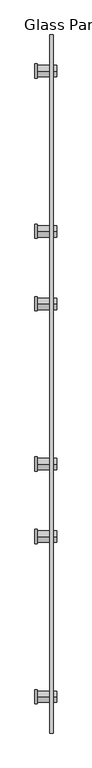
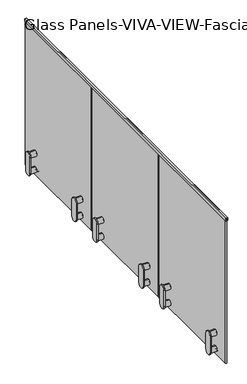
"""IFC4 building model written with IfcOpenShell, lengths in millimetres: railing geometry, Glass Panels-VIVA-VIEW-Fascia-Plate-Straight."""

from ifc_helpers import new_model, si_unit, point, frame, frame_2d, origin, place, context, project, spatial, polyline, circle_curve, trimmed, segment, composite_curve, outline, extrude, source, transform, mapped, element, save
from ifc_brep_helpers import plane_surface, cylinder_surface, advanced_brep


def glass_panels_viva_view_fascia_plate_straight_4b569ee7(model_context):
    return source(origin(), model_context, "Body", "SolidModel", [
        extrude(outline(polyline([(4140.2, 42887.1264963), (4114.8, 42887.1264963), (4114.8, 42888.7139963), (4138.6125, 42888.7139963), (4138.6125, 42901.4139963), (4114.8, 42901.4139963), (4114.8, 42903.0014963), (4140.2, 42903.0014963), (4140.2, 42887.1264963)])), frame((0.0, -11437.3346054, 0.0), z_axis=(0.0, 1.0, 0.0), x_axis=(0.0, 0.0, 1.0)), (0.0, 0.0, 1.0), 3098.8),
        advanced_brep(
        [(42918.8762024, -9210.2182255, 2794.0), (42918.8762024, -9210.2182255, 2844.8), (42918.8762024, -9210.2182255, 2819.4), (42901.4137024, -9210.2182255, 2794.0), (42901.4137024, -9210.2182255, 2844.8), (42901.4137024, -9210.2182255, 2813.685), (42901.4137024, -9210.2182255, 2825.115), (42888.7137024, -9210.2182255, 2813.685), (42888.7137024, -9210.2182255, 2825.115), (42888.7137024, -9210.2182255, 2794.0), (42888.7137024, -9210.2182255, 2844.8), (42831.5638494, -9210.2182255, 2794.0), (42831.5638494, -9210.2182255, 2844.8), (42831.5638494, -9210.2182255, 2819.4)],
        [
            (0, 1, circle_curve(frame((42918.8762024, -9210.2182255, 2819.4), z_axis=(1.0, 0.0, 0.0), x_axis=(0.0, 0.0, 1.0)), 25.4)),
            (1, 2),
            (2, 0),
            (1, 0, circle_curve(frame((42918.8762024, -9210.2182255, 2819.4), z_axis=(1.0, 0.0, 0.0), x_axis=(0.0, 0.0, 1.0)), 25.4)),
            (3, 4, circle_curve(frame((42901.4137024, -9210.2182255, 2819.4), z_axis=(1.0, 0.0, 0.0), x_axis=(0.0, 0.0, 1.0)), 25.4)),
            (4, 1),
            (0, 3),
            (4, 3, circle_curve(frame((42901.4137024, -9210.2182255, 2819.4), z_axis=(1.0, 0.0, 0.0), x_axis=(0.0, 0.0, 1.0)), 25.4)),
            (5, 6, circle_curve(frame((42901.4137024, -9210.2182255, 2819.4), z_axis=(1.0, 0.0, 0.0), x_axis=(0.0, 0.0, 1.0)), 5.715)),
            (6, 4),
            (3, 5),
            (6, 5, circle_curve(frame((42901.4137024, -9210.2182255, 2819.4), z_axis=(1.0, 0.0, 0.0), x_axis=(0.0, 0.0, 1.0)), 5.715)),
            (7, 8, circle_curve(frame((42888.7137024, -9210.2182255, 2819.4), z_axis=(1.0, 0.0, 0.0), x_axis=(0.0, 0.0, 1.0)), 5.715)),
            (8, 6),
            (5, 7),
            (8, 7, circle_curve(frame((42888.7137024, -9210.2182255, 2819.4), z_axis=(1.0, 0.0, 0.0), x_axis=(0.0, 0.0, 1.0)), 5.715)),
            (9, 10, circle_curve(frame((42888.7137024, -9210.2182255, 2819.4), z_axis=(1.0, 0.0, 0.0), x_axis=(0.0, 0.0, 1.0)), 25.4)),
            (10, 8),
            (7, 9),
            (10, 9, circle_curve(frame((42888.7137024, -9210.2182255, 2819.4), z_axis=(1.0, 0.0, 0.0), x_axis=(0.0, 0.0, 1.0)), 25.4)),
            (11, 12, circle_curve(frame((42831.5638494, -9210.2182255, 2819.4), z_axis=(1.0, 0.0, 0.0), x_axis=(0.0, 0.0, 1.0)), 25.4)),
            (12, 10),
            (9, 11),
            (12, 11, circle_curve(frame((42831.5638494, -9210.2182255, 2819.4), z_axis=(1.0, 0.0, 0.0), x_axis=(0.0, 0.0, 1.0)), 25.4)),
            (13, 12),
            (11, 13),
        ],
        [
            plane_surface(frame((42918.8762024, -9210.2182255, 2819.4), z_axis=(1.0, 0.0, 0.0), x_axis=(0.0, 0.0, 1.0))),
            cylinder_surface(frame((42987.1388494, -9210.2182255, 2819.4), z_axis=(-1.0, 0.0, 0.0), x_axis=(0.0, 0.0, 1.0)), 25.4),
            plane_surface(frame((42901.4137024, -9210.2182255, 2819.4), z_axis=(-1.0, 0.0, 0.0), x_axis=(0.0, 0.0, 1.0))),
            cylinder_surface(frame((42987.1388494, -9210.2182255, 2819.4), z_axis=(-1.0, 0.0, 0.0), x_axis=(0.0, 0.0, 1.0)), 5.715),
            plane_surface(frame((42888.7137024, -9210.2182255, 2819.4), z_axis=(1.0, 0.0, 0.0), x_axis=(0.0, 0.0, 1.0))),
            plane_surface(frame((42831.5638494, -9210.2182255, 2819.4), z_axis=(-1.0, 0.0, 0.0), x_axis=(0.0, 0.0, 1.0))),
        ],
        [
            (0, [[1, 2, 3]]),
            (0, [[4, -3, -2]]),
            (1, [[5, 6, -1, 7]]),
            (1, [[8, -7, -4, -6]]),
            (2, [[9, 10, -5, 11]]),
            (2, [[12, -11, -8, -10]]),
            (3, [[13, 14, -9, 15]]),
            (3, [[16, -15, -12, -14]]),
            (4, [[17, 18, -13, 19]]),
            (4, [[20, -19, -16, -18]]),
            (1, [[21, 22, -17, 23]]),
            (1, [[24, -23, -20, -22]]),
            (5, [[25, -21, 26]]),
            (5, [[-26, -24, -25]]),
        ],
    ),
        advanced_brep(
        [(42901.4137024, -9210.2182255, 2966.085), (42901.4137024, -9210.2182255, 2977.515), (42901.4137024, -9210.2182255, 2997.2), (42901.4137024, -9210.2182255, 2946.4), (42888.7137024, -9210.2182255, 2966.085), (42888.7137024, -9210.2182255, 2977.515), (42888.7137024, -9210.2182255, 2946.4), (42888.7137024, -9210.2182255, 2997.2), (42831.5638494, -9210.2182255, 2946.4), (42831.5638494, -9210.2182255, 2997.2), (42831.5638494, -9210.2182255, 2971.8), (42918.8762024, -9210.2182255, 2946.4), (42918.8762024, -9210.2182255, 2997.2), (42918.8762024, -9210.2182255, 2971.8)],
        [
            (0, 1, circle_curve(frame((42901.4137024, -9210.2182255, 2971.8), z_axis=(1.0, 0.0, 0.0), x_axis=(0.0, 0.0, 1.0)), 5.715)),
            (1, 2),
            (2, 3, circle_curve(frame((42901.4137024, -9210.2182255, 2971.8), z_axis=(-1.0, 0.0, 0.0), x_axis=(0.0, 0.0, 1.0)), 25.4)),
            (3, 0),
            (1, 0, circle_curve(frame((42901.4137024, -9210.2182255, 2971.8), z_axis=(1.0, 0.0, 0.0), x_axis=(0.0, 0.0, 1.0)), 5.715)),
            (3, 2, circle_curve(frame((42901.4137024, -9210.2182255, 2971.8), z_axis=(-1.0, 0.0, 0.0), x_axis=(0.0, 0.0, 1.0)), 25.4)),
            (4, 5, circle_curve(frame((42888.7137024, -9210.2182255, 2971.8), z_axis=(1.0, 0.0, 0.0), x_axis=(0.0, 0.0, 1.0)), 5.715)),
            (5, 1),
            (0, 4),
            (5, 4, circle_curve(frame((42888.7137024, -9210.2182255, 2971.8), z_axis=(1.0, 0.0, 0.0), x_axis=(0.0, 0.0, 1.0)), 5.715)),
            (6, 7, circle_curve(frame((42888.7137024, -9210.2182255, 2971.8), z_axis=(1.0, 0.0, 0.0), x_axis=(0.0, 0.0, 1.0)), 25.4)),
            (7, 5),
            (4, 6),
            (7, 6, circle_curve(frame((42888.7137024, -9210.2182255, 2971.8), z_axis=(1.0, 0.0, 0.0), x_axis=(0.0, 0.0, 1.0)), 25.4)),
            (8, 9, circle_curve(frame((42831.5638494, -9210.2182255, 2971.8), z_axis=(1.0, 0.0, 0.0), x_axis=(0.0, 0.0, 1.0)), 25.4)),
            (9, 7),
            (6, 8),
            (9, 8, circle_curve(frame((42831.5638494, -9210.2182255, 2971.8), z_axis=(1.0, 0.0, 0.0), x_axis=(0.0, 0.0, 1.0)), 25.4)),
            (10, 9),
            (8, 10),
            (11, 12, circle_curve(frame((42918.8762024, -9210.2182255, 2971.8), z_axis=(1.0, 0.0, 0.0), x_axis=(0.0, 0.0, 1.0)), 25.4)),
            (12, 13),
            (13, 11),
            (12, 11, circle_curve(frame((42918.8762024, -9210.2182255, 2971.8), z_axis=(1.0, 0.0, 0.0), x_axis=(0.0, 0.0, 1.0)), 25.4)),
            (2, 12),
            (11, 3),
        ],
        [
            plane_surface(frame((42901.4137024, -9210.2182255, 2971.8), z_axis=(-1.0, 0.0, 0.0), x_axis=(0.0, 0.0, 1.0))),
            cylinder_surface(frame((42987.1388494, -9210.2182255, 2971.8), z_axis=(-1.0, 0.0, 0.0), x_axis=(0.0, 0.0, 1.0)), 5.715),
            plane_surface(frame((42888.7137024, -9210.2182255, 2971.8), z_axis=(1.0, 0.0, 0.0), x_axis=(0.0, 0.0, 1.0))),
            cylinder_surface(frame((42987.1388494, -9210.2182255, 2971.8), z_axis=(-1.0, 0.0, 0.0), x_axis=(0.0, 0.0, 1.0)), 25.4),
            plane_surface(frame((42831.5638494, -9210.2182255, 2971.8), z_axis=(-1.0, 0.0, 0.0), x_axis=(0.0, 0.0, 1.0))),
            plane_surface(frame((42918.8762024, -9210.2182255, 2971.8), z_axis=(1.0, 0.0, 0.0), x_axis=(0.0, 0.0, 1.0))),
        ],
        [
            (0, [[1, 2, 3, 4]]),
            (0, [[5, -4, 6, -2]]),
            (1, [[7, 8, -1, 9]]),
            (1, [[10, -9, -5, -8]]),
            (2, [[11, 12, -7, 13]]),
            (2, [[14, -13, -10, -12]]),
            (3, [[15, 16, -11, 17]]),
            (3, [[18, -17, -14, -16]]),
            (4, [[19, -15, 20]]),
            (4, [[-20, -18, -19]]),
            (5, [[21, 22, 23]]),
            (5, [[24, -23, -22]]),
            (3, [[-3, 25, -21, 26]]),
            (3, [[-6, -26, -24, -25]]),
        ],
    ),
        extrude(outline(composite_curve([segment(trimmed(circle_curve(frame_2d((-9210.2182255, 2971.8)), 31.75), [point((-9241.9682255, 2971.8))], [point((-9178.4682255, 2971.8))], False, "CARTESIAN"), True, "CONTINUOUS"), segment(polyline([(-9178.4682255, 2971.8), (-9178.4682255, 2819.4)]), True, "CONTINUOUS"), segment(trimmed(circle_curve(frame_2d((-9210.2182255, 2819.4)), 31.75), [point((-9178.4682255, 2819.4))], [point((-9241.9682255, 2819.4))], False, "CARTESIAN"), True, "CONTINUOUS"), segment(polyline([(-9241.9682255, 2819.4), (-9241.9682255, 2971.8)]), True, "CONTINUOUS")], self_intersect=False)), frame((42822.0388494, 0.0, 0.0), z_axis=(1.0, 0.0, 0.0), x_axis=(0.0, 1.0, 0.0)), (0.0, 0.0, 1.0), 9.525),
        advanced_brep(
        [(42918.8762024, -8499.0182255, 2794.0), (42918.8762024, -8499.0182255, 2844.8), (42918.8762024, -8499.0182255, 2819.4), (42901.4137024, -8499.0182255, 2794.0), (42901.4137024, -8499.0182255, 2844.8), (42901.4137024, -8499.0182255, 2813.685), (42901.4137024, -8499.0182255, 2825.115), (42888.7137024, -8499.0182255, 2813.685), (42888.7137024, -8499.0182255, 2825.115), (42888.7137024, -8499.0182255, 2794.0), (42888.7137024, -8499.0182255, 2844.8), (42831.5638494, -8499.0182255, 2794.0), (42831.5638494, -8499.0182255, 2844.8), (42831.5638494, -8499.0182255, 2819.4)],
        [
            (0, 1, circle_curve(frame((42918.8762024, -8499.0182255, 2819.4), z_axis=(1.0, 0.0, 0.0), x_axis=(0.0, 0.0, 1.0)), 25.4)),
            (1, 2),
            (2, 0),
            (1, 0, circle_curve(frame((42918.8762024, -8499.0182255, 2819.4), z_axis=(1.0, 0.0, 0.0), x_axis=(0.0, 0.0, 1.0)), 25.4)),
            (3, 4, circle_curve(frame((42901.4137024, -8499.0182255, 2819.4), z_axis=(1.0, 0.0, 0.0), x_axis=(0.0, 0.0, 1.0)), 25.4)),
            (4, 1),
            (0, 3),
            (4, 3, circle_curve(frame((42901.4137024, -8499.0182255, 2819.4), z_axis=(1.0, 0.0, 0.0), x_axis=(0.0, 0.0, 1.0)), 25.4)),
            (5, 6, circle_curve(frame((42901.4137024, -8499.0182255, 2819.4), z_axis=(1.0, 0.0, 0.0), x_axis=(0.0, 0.0, 1.0)), 5.715)),
            (6, 4),
            (3, 5),
            (6, 5, circle_curve(frame((42901.4137024, -8499.0182255, 2819.4), z_axis=(1.0, 0.0, 0.0), x_axis=(0.0, 0.0, 1.0)), 5.715)),
            (7, 8, circle_curve(frame((42888.7137024, -8499.0182255, 2819.4), z_axis=(1.0, 0.0, 0.0), x_axis=(0.0, 0.0, 1.0)), 5.715)),
            (8, 6),
            (5, 7),
            (8, 7, circle_curve(frame((42888.7137024, -8499.0182255, 2819.4), z_axis=(1.0, 0.0, 0.0), x_axis=(0.0, 0.0, 1.0)), 5.715)),
            (9, 10, circle_curve(frame((42888.7137024, -8499.0182255, 2819.4), z_axis=(1.0, 0.0, 0.0), x_axis=(0.0, 0.0, 1.0)), 25.4)),
            (10, 8),
            (7, 9),
            (10, 9, circle_curve(frame((42888.7137024, -8499.0182255, 2819.4), z_axis=(1.0, 0.0, 0.0), x_axis=(0.0, 0.0, 1.0)), 25.4)),
            (11, 12, circle_curve(frame((42831.5638494, -8499.0182255, 2819.4), z_axis=(1.0, 0.0, 0.0), x_axis=(0.0, 0.0, 1.0)), 25.4)),
            (12, 10),
            (9, 11),
            (12, 11, circle_curve(frame((42831.5638494, -8499.0182255, 2819.4), z_axis=(1.0, 0.0, 0.0), x_axis=(0.0, 0.0, 1.0)), 25.4)),
            (13, 12),
            (11, 13),
        ],
        [
            plane_surface(frame((42918.8762024, -8499.0182255, 2819.4), z_axis=(1.0, 0.0, 0.0), x_axis=(0.0, 0.0, 1.0))),
            cylinder_surface(frame((42987.1388494, -8499.0182255, 2819.4), z_axis=(-1.0, 0.0, 0.0), x_axis=(0.0, 0.0, 1.0)), 25.4),
            plane_surface(frame((42901.4137024, -8499.0182255, 2819.4), z_axis=(-1.0, 0.0, 0.0), x_axis=(0.0, 0.0, 1.0))),
            cylinder_surface(frame((42987.1388494, -8499.0182255, 2819.4), z_axis=(-1.0, 0.0, 0.0), x_axis=(0.0, 0.0, 1.0)), 5.715),
            plane_surface(frame((42888.7137024, -8499.0182255, 2819.4), z_axis=(1.0, 0.0, 0.0), x_axis=(0.0, 0.0, 1.0))),
            plane_surface(frame((42831.5638494, -8499.0182255, 2819.4), z_axis=(-1.0, 0.0, 0.0), x_axis=(0.0, 0.0, 1.0))),
        ],
        [
            (0, [[1, 2, 3]]),
            (0, [[4, -3, -2]]),
            (1, [[5, 6, -1, 7]]),
            (1, [[8, -7, -4, -6]]),
            (2, [[9, 10, -5, 11]]),
            (2, [[12, -11, -8, -10]]),
            (3, [[13, 14, -9, 15]]),
            (3, [[16, -15, -12, -14]]),
            (4, [[17, 18, -13, 19]]),
            (4, [[20, -19, -16, -18]]),
            (1, [[21, 22, -17, 23]]),
            (1, [[24, -23, -20, -22]]),
            (5, [[25, -21, 26]]),
            (5, [[-26, -24, -25]]),
        ],
    ),
        advanced_brep(
        [(42901.4137024, -8499.0182255, 2966.085), (42901.4137024, -8499.0182255, 2977.515), (42901.4137024, -8499.0182255, 2997.2), (42901.4137024, -8499.0182255, 2946.4), (42888.7137024, -8499.0182255, 2966.085), (42888.7137024, -8499.0182255, 2977.515), (42888.7137024, -8499.0182255, 2946.4), (42888.7137024, -8499.0182255, 2997.2), (42831.5638494, -8499.0182255, 2946.4), (42831.5638494, -8499.0182255, 2997.2), (42831.5638494, -8499.0182255, 2971.8), (42918.8762024, -8499.0182255, 2946.4), (42918.8762024, -8499.0182255, 2997.2), (42918.8762024, -8499.0182255, 2971.8)],
        [
            (0, 1, circle_curve(frame((42901.4137024, -8499.0182255, 2971.8), z_axis=(1.0, 0.0, 0.0), x_axis=(0.0, 0.0, 1.0)), 5.715)),
            (1, 2),
            (2, 3, circle_curve(frame((42901.4137024, -8499.0182255, 2971.8), z_axis=(-1.0, 0.0, 0.0), x_axis=(0.0, 0.0, 1.0)), 25.4)),
            (3, 0),
            (1, 0, circle_curve(frame((42901.4137024, -8499.0182255, 2971.8), z_axis=(1.0, 0.0, 0.0), x_axis=(0.0, 0.0, 1.0)), 5.715)),
            (3, 2, circle_curve(frame((42901.4137024, -8499.0182255, 2971.8), z_axis=(-1.0, 0.0, 0.0), x_axis=(0.0, 0.0, 1.0)), 25.4)),
            (4, 5, circle_curve(frame((42888.7137024, -8499.0182255, 2971.8), z_axis=(1.0, 0.0, 0.0), x_axis=(0.0, 0.0, 1.0)), 5.715)),
            (5, 1),
            (0, 4),
            (5, 4, circle_curve(frame((42888.7137024, -8499.0182255, 2971.8), z_axis=(1.0, 0.0, 0.0), x_axis=(0.0, 0.0, 1.0)), 5.715)),
            (6, 7, circle_curve(frame((42888.7137024, -8499.0182255, 2971.8), z_axis=(1.0, 0.0, 0.0), x_axis=(0.0, 0.0, 1.0)), 25.4)),
            (7, 5),
            (4, 6),
            (7, 6, circle_curve(frame((42888.7137024, -8499.0182255, 2971.8), z_axis=(1.0, 0.0, 0.0), x_axis=(0.0, 0.0, 1.0)), 25.4)),
            (8, 9, circle_curve(frame((42831.5638494, -8499.0182255, 2971.8), z_axis=(1.0, 0.0, 0.0), x_axis=(0.0, 0.0, 1.0)), 25.4)),
            (9, 7),
            (6, 8),
            (9, 8, circle_curve(frame((42831.5638494, -8499.0182255, 2971.8), z_axis=(1.0, 0.0, 0.0), x_axis=(0.0, 0.0, 1.0)), 25.4)),
            (10, 9),
            (8, 10),
            (11, 12, circle_curve(frame((42918.8762024, -8499.0182255, 2971.8), z_axis=(1.0, 0.0, 0.0), x_axis=(0.0, 0.0, 1.0)), 25.4)),
            (12, 13),
            (13, 11),
            (12, 11, circle_curve(frame((42918.8762024, -8499.0182255, 2971.8), z_axis=(1.0, 0.0, 0.0), x_axis=(0.0, 0.0, 1.0)), 25.4)),
            (2, 12),
            (11, 3),
        ],
        [
            plane_surface(frame((42901.4137024, -8499.0182255, 2971.8), z_axis=(-1.0, 0.0, 0.0), x_axis=(0.0, 0.0, 1.0))),
            cylinder_surface(frame((42987.1388494, -8499.0182255, 2971.8), z_axis=(-1.0, 0.0, 0.0), x_axis=(0.0, 0.0, 1.0)), 5.715),
            plane_surface(frame((42888.7137024, -8499.0182255, 2971.8), z_axis=(1.0, 0.0, 0.0), x_axis=(0.0, 0.0, 1.0))),
            cylinder_surface(frame((42987.1388494, -8499.0182255, 2971.8), z_axis=(-1.0, 0.0, 0.0), x_axis=(0.0, 0.0, 1.0)), 25.4),
            plane_surface(frame((42831.5638494, -8499.0182255, 2971.8), z_axis=(-1.0, 0.0, 0.0), x_axis=(0.0, 0.0, 1.0))),
            plane_surface(frame((42918.8762024, -8499.0182255, 2971.8), z_axis=(1.0, 0.0, 0.0), x_axis=(0.0, 0.0, 1.0))),
        ],
        [
            (0, [[1, 2, 3, 4]]),
            (0, [[5, -4, 6, -2]]),
            (1, [[7, 8, -1, 9]]),
            (1, [[10, -9, -5, -8]]),
            (2, [[11, 12, -7, 13]]),
            (2, [[14, -13, -10, -12]]),
            (3, [[15, 16, -11, 17]]),
            (3, [[18, -17, -14, -16]]),
            (4, [[19, -15, 20]]),
            (4, [[-20, -18, -19]]),
            (5, [[21, 22, 23]]),
            (5, [[24, -23, -22]]),
            (3, [[-3, 25, -21, 26]]),
            (3, [[-6, -26, -24, -25]]),
        ],
    ),
        extrude(outline(composite_curve([segment(trimmed(circle_curve(frame_2d((-8499.0182255, 2971.8)), 31.75), [point((-8530.7682255, 2971.8))], [point((-8467.2682255, 2971.8))], False, "CARTESIAN"), True, "CONTINUOUS"), segment(polyline([(-8467.2682255, 2971.8), (-8467.2682255, 2819.4)]), True, "CONTINUOUS"), segment(trimmed(circle_curve(frame_2d((-8499.0182255, 2819.4)), 31.75), [point((-8467.2682255, 2819.4))], [point((-8530.7682255, 2819.4))], False, "CARTESIAN"), True, "CONTINUOUS"), segment(polyline([(-8530.7682255, 2819.4), (-8530.7682255, 2971.8)]), True, "CONTINUOUS")], self_intersect=False)), frame((42822.0388494, 0.0, 0.0), z_axis=(1.0, 0.0, 0.0), x_axis=(0.0, 1.0, 0.0)), (0.0, 0.0, 1.0), 9.525),
        extrude(outline(polyline([(42888.7139963, -9362.6182255), (42888.7139963, -8346.6182255), (42901.4139963, -8346.6182255), (42901.4139963, -9362.6182255), (42888.7139963, -9362.6182255)])), frame((0.0, 0.0, 2768.6), z_axis=(0.0, 0.0, 1.0), x_axis=(1.0, 0.0, 0.0)), (0.0, 0.0, 1.0), 1370.0125),
        advanced_brep(
        [(42918.8762024, -10243.1515588, 2794.0), (42918.8762024, -10243.1515588, 2844.8), (42918.8762024, -10243.1515588, 2819.4), (42901.4137024, -10243.1515588, 2794.0), (42901.4137024, -10243.1515588, 2844.8), (42901.4137024, -10243.1515588, 2813.685), (42901.4137024, -10243.1515588, 2825.115), (42888.7137024, -10243.1515588, 2813.685), (42888.7137024, -10243.1515588, 2825.115), (42888.7137024, -10243.1515588, 2794.0), (42888.7137024, -10243.1515588, 2844.8), (42831.5638494, -10243.1515588, 2794.0), (42831.5638494, -10243.1515588, 2844.8), (42831.5638494, -10243.1515588, 2819.4)],
        [
            (0, 1, circle_curve(frame((42918.8762024, -10243.1515588, 2819.4), z_axis=(1.0, 0.0, 0.0), x_axis=(0.0, 0.0, 1.0)), 25.4)),
            (1, 2),
            (2, 0),
            (1, 0, circle_curve(frame((42918.8762024, -10243.1515588, 2819.4), z_axis=(1.0, 0.0, 0.0), x_axis=(0.0, 0.0, 1.0)), 25.4)),
            (3, 4, circle_curve(frame((42901.4137024, -10243.1515588, 2819.4), z_axis=(1.0, 0.0, 0.0), x_axis=(0.0, 0.0, 1.0)), 25.4)),
            (4, 1),
            (0, 3),
            (4, 3, circle_curve(frame((42901.4137024, -10243.1515588, 2819.4), z_axis=(1.0, 0.0, 0.0), x_axis=(0.0, 0.0, 1.0)), 25.4)),
            (5, 6, circle_curve(frame((42901.4137024, -10243.1515588, 2819.4), z_axis=(1.0, 0.0, 0.0), x_axis=(0.0, 0.0, 1.0)), 5.715)),
            (6, 4),
            (3, 5),
            (6, 5, circle_curve(frame((42901.4137024, -10243.1515588, 2819.4), z_axis=(1.0, 0.0, 0.0), x_axis=(0.0, 0.0, 1.0)), 5.715)),
            (7, 8, circle_curve(frame((42888.7137024, -10243.1515588, 2819.4), z_axis=(1.0, 0.0, 0.0), x_axis=(0.0, 0.0, 1.0)), 5.715)),
            (8, 6),
            (5, 7),
            (8, 7, circle_curve(frame((42888.7137024, -10243.1515588, 2819.4), z_axis=(1.0, 0.0, 0.0), x_axis=(0.0, 0.0, 1.0)), 5.715)),
            (9, 10, circle_curve(frame((42888.7137024, -10243.1515588, 2819.4), z_axis=(1.0, 0.0, 0.0), x_axis=(0.0, 0.0, 1.0)), 25.4)),
            (10, 8),
            (7, 9),
            (10, 9, circle_curve(frame((42888.7137024, -10243.1515588, 2819.4), z_axis=(1.0, 0.0, 0.0), x_axis=(0.0, 0.0, 1.0)), 25.4)),
            (11, 12, circle_curve(frame((42831.5638494, -10243.1515588, 2819.4), z_axis=(1.0, 0.0, 0.0), x_axis=(0.0, 0.0, 1.0)), 25.4)),
            (12, 10),
            (9, 11),
            (12, 11, circle_curve(frame((42831.5638494, -10243.1515588, 2819.4), z_axis=(1.0, 0.0, 0.0), x_axis=(0.0, 0.0, 1.0)), 25.4)),
            (13, 12),
            (11, 13),
        ],
        [
            plane_surface(frame((42918.8762024, -10243.1515588, 2819.4), z_axis=(1.0, 0.0, 0.0), x_axis=(0.0, 0.0, 1.0))),
            cylinder_surface(frame((42987.1388494, -10243.1515588, 2819.4), z_axis=(-1.0, 0.0, 0.0), x_axis=(0.0, 0.0, 1.0)), 25.4),
            plane_surface(frame((42901.4137024, -10243.1515588, 2819.4), z_axis=(-1.0, 0.0, 0.0), x_axis=(0.0, 0.0, 1.0))),
            cylinder_surface(frame((42987.1388494, -10243.1515588, 2819.4), z_axis=(-1.0, 0.0, 0.0), x_axis=(0.0, 0.0, 1.0)), 5.715),
            plane_surface(frame((42888.7137024, -10243.1515588, 2819.4), z_axis=(1.0, 0.0, 0.0), x_axis=(0.0, 0.0, 1.0))),
            plane_surface(frame((42831.5638494, -10243.1515588, 2819.4), z_axis=(-1.0, 0.0, 0.0), x_axis=(0.0, 0.0, 1.0))),
        ],
        [
            (0, [[1, 2, 3]]),
            (0, [[4, -3, -2]]),
            (1, [[5, 6, -1, 7]]),
            (1, [[8, -7, -4, -6]]),
            (2, [[9, 10, -5, 11]]),
            (2, [[12, -11, -8, -10]]),
            (3, [[13, 14, -9, 15]]),
            (3, [[16, -15, -12, -14]]),
            (4, [[17, 18, -13, 19]]),
            (4, [[20, -19, -16, -18]]),
            (1, [[21, 22, -17, 23]]),
            (1, [[24, -23, -20, -22]]),
            (5, [[25, -21, 26]]),
            (5, [[-26, -24, -25]]),
        ],
    ),
        advanced_brep(
        [(42901.4137024, -10243.1515588, 2966.085), (42901.4137024, -10243.1515588, 2977.515), (42901.4137024, -10243.1515588, 2997.2), (42901.4137024, -10243.1515588, 2946.4), (42888.7137024, -10243.1515588, 2966.085), (42888.7137024, -10243.1515588, 2977.515), (42888.7137024, -10243.1515588, 2946.4), (42888.7137024, -10243.1515588, 2997.2), (42831.5638494, -10243.1515588, 2946.4), (42831.5638494, -10243.1515588, 2997.2), (42831.5638494, -10243.1515588, 2971.8), (42918.8762024, -10243.1515588, 2946.4), (42918.8762024, -10243.1515588, 2997.2), (42918.8762024, -10243.1515588, 2971.8)],
        [
            (0, 1, circle_curve(frame((42901.4137024, -10243.1515588, 2971.8), z_axis=(1.0, 0.0, 0.0), x_axis=(0.0, 0.0, 1.0)), 5.715)),
            (1, 2),
            (2, 3, circle_curve(frame((42901.4137024, -10243.1515588, 2971.8), z_axis=(-1.0, 0.0, 0.0), x_axis=(0.0, 0.0, 1.0)), 25.4)),
            (3, 0),
            (1, 0, circle_curve(frame((42901.4137024, -10243.1515588, 2971.8), z_axis=(1.0, 0.0, 0.0), x_axis=(0.0, 0.0, 1.0)), 5.715)),
            (3, 2, circle_curve(frame((42901.4137024, -10243.1515588, 2971.8), z_axis=(-1.0, 0.0, 0.0), x_axis=(0.0, 0.0, 1.0)), 25.4)),
            (4, 5, circle_curve(frame((42888.7137024, -10243.1515588, 2971.8), z_axis=(1.0, 0.0, 0.0), x_axis=(0.0, 0.0, 1.0)), 5.715)),
            (5, 1),
            (0, 4),
            (5, 4, circle_curve(frame((42888.7137024, -10243.1515588, 2971.8), z_axis=(1.0, 0.0, 0.0), x_axis=(0.0, 0.0, 1.0)), 5.715)),
            (6, 7, circle_curve(frame((42888.7137024, -10243.1515588, 2971.8), z_axis=(1.0, 0.0, 0.0), x_axis=(0.0, 0.0, 1.0)), 25.4)),
            (7, 5),
            (4, 6),
            (7, 6, circle_curve(frame((42888.7137024, -10243.1515588, 2971.8), z_axis=(1.0, 0.0, 0.0), x_axis=(0.0, 0.0, 1.0)), 25.4)),
            (8, 9, circle_curve(frame((42831.5638494, -10243.1515588, 2971.8), z_axis=(1.0, 0.0, 0.0), x_axis=(0.0, 0.0, 1.0)), 25.4)),
            (9, 7),
            (6, 8),
            (9, 8, circle_curve(frame((42831.5638494, -10243.1515588, 2971.8), z_axis=(1.0, 0.0, 0.0), x_axis=(0.0, 0.0, 1.0)), 25.4)),
            (10, 9),
            (8, 10),
            (11, 12, circle_curve(frame((42918.8762024, -10243.1515588, 2971.8), z_axis=(1.0, 0.0, 0.0), x_axis=(0.0, 0.0, 1.0)), 25.4)),
            (12, 13),
            (13, 11),
            (12, 11, circle_curve(frame((42918.8762024, -10243.1515588, 2971.8), z_axis=(1.0, 0.0, 0.0), x_axis=(0.0, 0.0, 1.0)), 25.4)),
            (2, 12),
            (11, 3),
        ],
        [
            plane_surface(frame((42901.4137024, -10243.1515588, 2971.8), z_axis=(-1.0, 0.0, 0.0), x_axis=(0.0, 0.0, 1.0))),
            cylinder_surface(frame((42987.1388494, -10243.1515588, 2971.8), z_axis=(-1.0, 0.0, 0.0), x_axis=(0.0, 0.0, 1.0)), 5.715),
            plane_surface(frame((42888.7137024, -10243.1515588, 2971.8), z_axis=(1.0, 0.0, 0.0), x_axis=(0.0, 0.0, 1.0))),
            cylinder_surface(frame((42987.1388494, -10243.1515588, 2971.8), z_axis=(-1.0, 0.0, 0.0), x_axis=(0.0, 0.0, 1.0)), 25.4),
            plane_surface(frame((42831.5638494, -10243.1515588, 2971.8), z_axis=(-1.0, 0.0, 0.0), x_axis=(0.0, 0.0, 1.0))),
            plane_surface(frame((42918.8762024, -10243.1515588, 2971.8), z_axis=(1.0, 0.0, 0.0), x_axis=(0.0, 0.0, 1.0))),
        ],
        [
            (0, [[1, 2, 3, 4]]),
            (0, [[5, -4, 6, -2]]),
            (1, [[7, 8, -1, 9]]),
            (1, [[10, -9, -5, -8]]),
            (2, [[11, 12, -7, 13]]),
            (2, [[14, -13, -10, -12]]),
            (3, [[15, 16, -11, 17]]),
            (3, [[18, -17, -14, -16]]),
            (4, [[19, -15, 20]]),
            (4, [[-20, -18, -19]]),
            (5, [[21, 22, 23]]),
            (5, [[24, -23, -22]]),
            (3, [[-3, 25, -21, 26]]),
            (3, [[-6, -26, -24, -25]]),
        ],
    ),
        extrude(outline(composite_curve([segment(trimmed(circle_curve(frame_2d((-10243.1515588, 2971.8)), 31.75), [point((-10274.9015588, 2971.8))], [point((-10211.4015588, 2971.8))], False, "CARTESIAN"), True, "CONTINUOUS"), segment(polyline([(-10211.4015588, 2971.8), (-10211.4015588, 2819.4)]), True, "CONTINUOUS"), segment(trimmed(circle_curve(frame_2d((-10243.1515588, 2819.4)), 31.75), [point((-10211.4015588, 2819.4))], [point((-10274.9015588, 2819.4))], False, "CARTESIAN"), True, "CONTINUOUS"), segment(polyline([(-10274.9015588, 2819.4), (-10274.9015588, 2971.8)]), True, "CONTINUOUS")], self_intersect=False)), frame((42822.0388494, 0.0, 0.0), z_axis=(1.0, 0.0, 0.0), x_axis=(0.0, 1.0, 0.0)), (0.0, 0.0, 1.0), 9.525),
        advanced_brep(
        [(42918.8762024, -9531.9515588, 2794.0), (42918.8762024, -9531.9515588, 2844.8), (42918.8762024, -9531.9515588, 2819.4), (42901.4137024, -9531.9515588, 2794.0), (42901.4137024, -9531.9515588, 2844.8), (42901.4137024, -9531.9515588, 2813.685), (42901.4137024, -9531.9515588, 2825.115), (42888.7137024, -9531.9515588, 2813.685), (42888.7137024, -9531.9515588, 2825.115), (42888.7137024, -9531.9515588, 2794.0), (42888.7137024, -9531.9515588, 2844.8), (42831.5638494, -9531.9515588, 2794.0), (42831.5638494, -9531.9515588, 2844.8), (42831.5638494, -9531.9515588, 2819.4)],
        [
            (0, 1, circle_curve(frame((42918.8762024, -9531.9515588, 2819.4), z_axis=(1.0, 0.0, 0.0), x_axis=(0.0, 0.0, 1.0)), 25.4)),
            (1, 2),
            (2, 0),
            (1, 0, circle_curve(frame((42918.8762024, -9531.9515588, 2819.4), z_axis=(1.0, 0.0, 0.0), x_axis=(0.0, 0.0, 1.0)), 25.4)),
            (3, 4, circle_curve(frame((42901.4137024, -9531.9515588, 2819.4), z_axis=(1.0, 0.0, 0.0), x_axis=(0.0, 0.0, 1.0)), 25.4)),
            (4, 1),
            (0, 3),
            (4, 3, circle_curve(frame((42901.4137024, -9531.9515588, 2819.4), z_axis=(1.0, 0.0, 0.0), x_axis=(0.0, 0.0, 1.0)), 25.4)),
            (5, 6, circle_curve(frame((42901.4137024, -9531.9515588, 2819.4), z_axis=(1.0, 0.0, 0.0), x_axis=(0.0, 0.0, 1.0)), 5.715)),
            (6, 4),
            (3, 5),
            (6, 5, circle_curve(frame((42901.4137024, -9531.9515588, 2819.4), z_axis=(1.0, 0.0, 0.0), x_axis=(0.0, 0.0, 1.0)), 5.715)),
            (7, 8, circle_curve(frame((42888.7137024, -9531.9515588, 2819.4), z_axis=(1.0, 0.0, 0.0), x_axis=(0.0, 0.0, 1.0)), 5.715)),
            (8, 6),
            (5, 7),
            (8, 7, circle_curve(frame((42888.7137024, -9531.9515588, 2819.4), z_axis=(1.0, 0.0, 0.0), x_axis=(0.0, 0.0, 1.0)), 5.715)),
            (9, 10, circle_curve(frame((42888.7137024, -9531.9515588, 2819.4), z_axis=(1.0, 0.0, 0.0), x_axis=(0.0, 0.0, 1.0)), 25.4)),
            (10, 8),
            (7, 9),
            (10, 9, circle_curve(frame((42888.7137024, -9531.9515588, 2819.4), z_axis=(1.0, 0.0, 0.0), x_axis=(0.0, 0.0, 1.0)), 25.4)),
            (11, 12, circle_curve(frame((42831.5638494, -9531.9515588, 2819.4), z_axis=(1.0, 0.0, 0.0), x_axis=(0.0, 0.0, 1.0)), 25.4)),
            (12, 10),
            (9, 11),
            (12, 11, circle_curve(frame((42831.5638494, -9531.9515588, 2819.4), z_axis=(1.0, 0.0, 0.0), x_axis=(0.0, 0.0, 1.0)), 25.4)),
            (13, 12),
            (11, 13),
        ],
        [
            plane_surface(frame((42918.8762024, -9531.9515588, 2819.4), z_axis=(1.0, 0.0, 0.0), x_axis=(0.0, 0.0, 1.0))),
            cylinder_surface(frame((42987.1388494, -9531.9515588, 2819.4), z_axis=(-1.0, 0.0, 0.0), x_axis=(0.0, 0.0, 1.0)), 25.4),
            plane_surface(frame((42901.4137024, -9531.9515588, 2819.4), z_axis=(-1.0, 0.0, 0.0), x_axis=(0.0, 0.0, 1.0))),
            cylinder_surface(frame((42987.1388494, -9531.9515588, 2819.4), z_axis=(-1.0, 0.0, 0.0), x_axis=(0.0, 0.0, 1.0)), 5.715),
            plane_surface(frame((42888.7137024, -9531.9515588, 2819.4), z_axis=(1.0, 0.0, 0.0), x_axis=(0.0, 0.0, 1.0))),
            plane_surface(frame((42831.5638494, -9531.9515588, 2819.4), z_axis=(-1.0, 0.0, 0.0), x_axis=(0.0, 0.0, 1.0))),
        ],
        [
            (0, [[1, 2, 3]]),
            (0, [[4, -3, -2]]),
            (1, [[5, 6, -1, 7]]),
            (1, [[8, -7, -4, -6]]),
            (2, [[9, 10, -5, 11]]),
            (2, [[12, -11, -8, -10]]),
            (3, [[13, 14, -9, 15]]),
            (3, [[16, -15, -12, -14]]),
            (4, [[17, 18, -13, 19]]),
            (4, [[20, -19, -16, -18]]),
            (1, [[21, 22, -17, 23]]),
            (1, [[24, -23, -20, -22]]),
            (5, [[25, -21, 26]]),
            (5, [[-26, -24, -25]]),
        ],
    ),
        advanced_brep(
        [(42901.4137024, -9531.9515588, 2966.085), (42901.4137024, -9531.9515588, 2977.515), (42901.4137024, -9531.9515588, 2997.2), (42901.4137024, -9531.9515588, 2946.4), (42888.7137024, -9531.9515588, 2966.085), (42888.7137024, -9531.9515588, 2977.515), (42888.7137024, -9531.9515588, 2946.4), (42888.7137024, -9531.9515588, 2997.2), (42831.5638494, -9531.9515588, 2946.4), (42831.5638494, -9531.9515588, 2997.2), (42831.5638494, -9531.9515588, 2971.8), (42918.8762024, -9531.9515588, 2946.4), (42918.8762024, -9531.9515588, 2997.2), (42918.8762024, -9531.9515588, 2971.8)],
        [
            (0, 1, circle_curve(frame((42901.4137024, -9531.9515588, 2971.8), z_axis=(1.0, 0.0, 0.0), x_axis=(0.0, 0.0, 1.0)), 5.715)),
            (1, 2),
            (2, 3, circle_curve(frame((42901.4137024, -9531.9515588, 2971.8), z_axis=(-1.0, 0.0, 0.0), x_axis=(0.0, 0.0, 1.0)), 25.4)),
            (3, 0),
            (1, 0, circle_curve(frame((42901.4137024, -9531.9515588, 2971.8), z_axis=(1.0, 0.0, 0.0), x_axis=(0.0, 0.0, 1.0)), 5.715)),
            (3, 2, circle_curve(frame((42901.4137024, -9531.9515588, 2971.8), z_axis=(-1.0, 0.0, 0.0), x_axis=(0.0, 0.0, 1.0)), 25.4)),
            (4, 5, circle_curve(frame((42888.7137024, -9531.9515588, 2971.8), z_axis=(1.0, 0.0, 0.0), x_axis=(0.0, 0.0, 1.0)), 5.715)),
            (5, 1),
            (0, 4),
            (5, 4, circle_curve(frame((42888.7137024, -9531.9515588, 2971.8), z_axis=(1.0, 0.0, 0.0), x_axis=(0.0, 0.0, 1.0)), 5.715)),
            (6, 7, circle_curve(frame((42888.7137024, -9531.9515588, 2971.8), z_axis=(1.0, 0.0, 0.0), x_axis=(0.0, 0.0, 1.0)), 25.4)),
            (7, 5),
            (4, 6),
            (7, 6, circle_curve(frame((42888.7137024, -9531.9515588, 2971.8), z_axis=(1.0, 0.0, 0.0), x_axis=(0.0, 0.0, 1.0)), 25.4)),
            (8, 9, circle_curve(frame((42831.5638494, -9531.9515588, 2971.8), z_axis=(1.0, 0.0, 0.0), x_axis=(0.0, 0.0, 1.0)), 25.4)),
            (9, 7),
            (6, 8),
            (9, 8, circle_curve(frame((42831.5638494, -9531.9515588, 2971.8), z_axis=(1.0, 0.0, 0.0), x_axis=(0.0, 0.0, 1.0)), 25.4)),
            (10, 9),
            (8, 10),
            (11, 12, circle_curve(frame((42918.8762024, -9531.9515588, 2971.8), z_axis=(1.0, 0.0, 0.0), x_axis=(0.0, 0.0, 1.0)), 25.4)),
            (12, 13),
            (13, 11),
            (12, 11, circle_curve(frame((42918.8762024, -9531.9515588, 2971.8), z_axis=(1.0, 0.0, 0.0), x_axis=(0.0, 0.0, 1.0)), 25.4)),
            (2, 12),
            (11, 3),
        ],
        [
            plane_surface(frame((42901.4137024, -9531.9515588, 2971.8), z_axis=(-1.0, 0.0, 0.0), x_axis=(0.0, 0.0, 1.0))),
            cylinder_surface(frame((42987.1388494, -9531.9515588, 2971.8), z_axis=(-1.0, 0.0, 0.0), x_axis=(0.0, 0.0, 1.0)), 5.715),
            plane_surface(frame((42888.7137024, -9531.9515588, 2971.8), z_axis=(1.0, 0.0, 0.0), x_axis=(0.0, 0.0, 1.0))),
            cylinder_surface(frame((42987.1388494, -9531.9515588, 2971.8), z_axis=(-1.0, 0.0, 0.0), x_axis=(0.0, 0.0, 1.0)), 25.4),
            plane_surface(frame((42831.5638494, -9531.9515588, 2971.8), z_axis=(-1.0, 0.0, 0.0), x_axis=(0.0, 0.0, 1.0))),
            plane_surface(frame((42918.8762024, -9531.9515588, 2971.8), z_axis=(1.0, 0.0, 0.0), x_axis=(0.0, 0.0, 1.0))),
        ],
        [
            (0, [[1, 2, 3, 4]]),
            (0, [[5, -4, 6, -2]]),
            (1, [[7, 8, -1, 9]]),
            (1, [[10, -9, -5, -8]]),
            (2, [[11, 12, -7, 13]]),
            (2, [[14, -13, -10, -12]]),
            (3, [[15, 16, -11, 17]]),
            (3, [[18, -17, -14, -16]]),
            (4, [[19, -15, 20]]),
            (4, [[-20, -18, -19]]),
            (5, [[21, 22, 23]]),
            (5, [[24, -23, -22]]),
            (3, [[-3, 25, -21, 26]]),
            (3, [[-6, -26, -24, -25]]),
        ],
    ),
        extrude(outline(composite_curve([segment(trimmed(circle_curve(frame_2d((-9531.9515588, 2971.8)), 31.75), [point((-9563.7015588, 2971.8))], [point((-9500.2015588, 2971.8))], False, "CARTESIAN"), True, "CONTINUOUS"), segment(polyline([(-9500.2015588, 2971.8), (-9500.2015588, 2819.4)]), True, "CONTINUOUS"), segment(trimmed(circle_curve(frame_2d((-9531.9515588, 2819.4)), 31.75), [point((-9500.2015588, 2819.4))], [point((-9563.7015588, 2819.4))], False, "CARTESIAN"), True, "CONTINUOUS"), segment(polyline([(-9563.7015588, 2819.4), (-9563.7015588, 2971.8)]), True, "CONTINUOUS")], self_intersect=False)), frame((42822.0388494, 0.0, 0.0), z_axis=(1.0, 0.0, 0.0), x_axis=(0.0, 1.0, 0.0)), (0.0, 0.0, 1.0), 9.525),
        extrude(outline(polyline([(42888.7139963, -10395.5515588), (42888.7139963, -9379.5515588), (42901.4139963, -9379.5515588), (42901.4139963, -10395.5515588), (42888.7139963, -10395.5515588)])), frame((0.0, 0.0, 2768.6), z_axis=(0.0, 0.0, 1.0), x_axis=(1.0, 0.0, 0.0)), (0.0, 0.0, 1.0), 1370.0125),
        advanced_brep(
        [(42918.8762024, -11276.0848922, 2794.0), (42918.8762024, -11276.0848922, 2844.8), (42918.8762024, -11276.0848922, 2819.4), (42901.4137024, -11276.0848922, 2794.0), (42901.4137024, -11276.0848922, 2844.8), (42901.4137024, -11276.0848922, 2813.685), (42901.4137024, -11276.0848922, 2825.115), (42888.7137024, -11276.0848922, 2813.685), (42888.7137024, -11276.0848922, 2825.115), (42888.7137024, -11276.0848922, 2794.0), (42888.7137024, -11276.0848922, 2844.8), (42831.5638494, -11276.0848922, 2794.0), (42831.5638494, -11276.0848922, 2844.8), (42831.5638494, -11276.0848922, 2819.4)],
        [
            (0, 1, circle_curve(frame((42918.8762024, -11276.0848922, 2819.4), z_axis=(1.0, 0.0, 0.0), x_axis=(0.0, 0.0, 1.0)), 25.4)),
            (1, 2),
            (2, 0),
            (1, 0, circle_curve(frame((42918.8762024, -11276.0848922, 2819.4), z_axis=(1.0, 0.0, 0.0), x_axis=(0.0, 0.0, 1.0)), 25.4)),
            (3, 4, circle_curve(frame((42901.4137024, -11276.0848922, 2819.4), z_axis=(1.0, 0.0, 0.0), x_axis=(0.0, 0.0, 1.0)), 25.4)),
            (4, 1),
            (0, 3),
            (4, 3, circle_curve(frame((42901.4137024, -11276.0848922, 2819.4), z_axis=(1.0, 0.0, 0.0), x_axis=(0.0, 0.0, 1.0)), 25.4)),
            (5, 6, circle_curve(frame((42901.4137024, -11276.0848922, 2819.4), z_axis=(1.0, 0.0, 0.0), x_axis=(0.0, 0.0, 1.0)), 5.715)),
            (6, 4),
            (3, 5),
            (6, 5, circle_curve(frame((42901.4137024, -11276.0848922, 2819.4), z_axis=(1.0, 0.0, 0.0), x_axis=(0.0, 0.0, 1.0)), 5.715)),
            (7, 8, circle_curve(frame((42888.7137024, -11276.0848922, 2819.4), z_axis=(1.0, 0.0, 0.0), x_axis=(0.0, 0.0, 1.0)), 5.715)),
            (8, 6),
            (5, 7),
            (8, 7, circle_curve(frame((42888.7137024, -11276.0848922, 2819.4), z_axis=(1.0, 0.0, 0.0), x_axis=(0.0, 0.0, 1.0)), 5.715)),
            (9, 10, circle_curve(frame((42888.7137024, -11276.0848922, 2819.4), z_axis=(1.0, 0.0, 0.0), x_axis=(0.0, 0.0, 1.0)), 25.4)),
            (10, 8),
            (7, 9),
            (10, 9, circle_curve(frame((42888.7137024, -11276.0848922, 2819.4), z_axis=(1.0, 0.0, 0.0), x_axis=(0.0, 0.0, 1.0)), 25.4)),
            (11, 12, circle_curve(frame((42831.5638494, -11276.0848922, 2819.4), z_axis=(1.0, 0.0, 0.0), x_axis=(0.0, 0.0, 1.0)), 25.4)),
            (12, 10),
            (9, 11),
            (12, 11, circle_curve(frame((42831.5638494, -11276.0848922, 2819.4), z_axis=(1.0, 0.0, 0.0), x_axis=(0.0, 0.0, 1.0)), 25.4)),
            (13, 12),
            (11, 13),
        ],
        [
            plane_surface(frame((42918.8762024, -11276.0848922, 2819.4), z_axis=(1.0, 0.0, 0.0), x_axis=(0.0, 0.0, 1.0))),
            cylinder_surface(frame((42987.1388494, -11276.0848922, 2819.4), z_axis=(-1.0, 0.0, 0.0), x_axis=(0.0, 0.0, 1.0)), 25.4),
            plane_surface(frame((42901.4137024, -11276.0848922, 2819.4), z_axis=(-1.0, 0.0, 0.0), x_axis=(0.0, 0.0, 1.0))),
            cylinder_surface(frame((42987.1388494, -11276.0848922, 2819.4), z_axis=(-1.0, 0.0, 0.0), x_axis=(0.0, 0.0, 1.0)), 5.715),
            plane_surface(frame((42888.7137024, -11276.0848922, 2819.4), z_axis=(1.0, 0.0, 0.0), x_axis=(0.0, 0.0, 1.0))),
            plane_surface(frame((42831.5638494, -11276.0848922, 2819.4), z_axis=(-1.0, 0.0, 0.0), x_axis=(0.0, 0.0, 1.0))),
        ],
        [
            (0, [[1, 2, 3]]),
            (0, [[4, -3, -2]]),
            (1, [[5, 6, -1, 7]]),
            (1, [[8, -7, -4, -6]]),
            (2, [[9, 10, -5, 11]]),
            (2, [[12, -11, -8, -10]]),
            (3, [[13, 14, -9, 15]]),
            (3, [[16, -15, -12, -14]]),
            (4, [[17, 18, -13, 19]]),
            (4, [[20, -19, -16, -18]]),
            (1, [[21, 22, -17, 23]]),
            (1, [[24, -23, -20, -22]]),
            (5, [[25, -21, 26]]),
            (5, [[-26, -24, -25]]),
        ],
    ),
        advanced_brep(
        [(42901.4137024, -11276.0848922, 2966.085), (42901.4137024, -11276.0848922, 2977.515), (42901.4137024, -11276.0848922, 2997.2), (42901.4137024, -11276.0848922, 2946.4), (42888.7137024, -11276.0848922, 2966.085), (42888.7137024, -11276.0848922, 2977.515), (42888.7137024, -11276.0848922, 2946.4), (42888.7137024, -11276.0848922, 2997.2), (42831.5638494, -11276.0848922, 2946.4), (42831.5638494, -11276.0848922, 2997.2), (42831.5638494, -11276.0848922, 2971.8), (42918.8762024, -11276.0848922, 2946.4), (42918.8762024, -11276.0848922, 2997.2), (42918.8762024, -11276.0848922, 2971.8)],
        [
            (0, 1, circle_curve(frame((42901.4137024, -11276.0848922, 2971.8), z_axis=(1.0, 0.0, 0.0), x_axis=(0.0, 0.0, 1.0)), 5.715)),
            (1, 2),
            (2, 3, circle_curve(frame((42901.4137024, -11276.0848922, 2971.8), z_axis=(-1.0, 0.0, 0.0), x_axis=(0.0, 0.0, 1.0)), 25.4)),
            (3, 0),
            (1, 0, circle_curve(frame((42901.4137024, -11276.0848922, 2971.8), z_axis=(1.0, 0.0, 0.0), x_axis=(0.0, 0.0, 1.0)), 5.715)),
            (3, 2, circle_curve(frame((42901.4137024, -11276.0848922, 2971.8), z_axis=(-1.0, 0.0, 0.0), x_axis=(0.0, 0.0, 1.0)), 25.4)),
            (4, 5, circle_curve(frame((42888.7137024, -11276.0848922, 2971.8), z_axis=(1.0, 0.0, 0.0), x_axis=(0.0, 0.0, 1.0)), 5.715)),
            (5, 1),
            (0, 4),
            (5, 4, circle_curve(frame((42888.7137024, -11276.0848922, 2971.8), z_axis=(1.0, 0.0, 0.0), x_axis=(0.0, 0.0, 1.0)), 5.715)),
            (6, 7, circle_curve(frame((42888.7137024, -11276.0848922, 2971.8), z_axis=(1.0, 0.0, 0.0), x_axis=(0.0, 0.0, 1.0)), 25.4)),
            (7, 5),
            (4, 6),
            (7, 6, circle_curve(frame((42888.7137024, -11276.0848922, 2971.8), z_axis=(1.0, 0.0, 0.0), x_axis=(0.0, 0.0, 1.0)), 25.4)),
            (8, 9, circle_curve(frame((42831.5638494, -11276.0848922, 2971.8), z_axis=(1.0, 0.0, 0.0), x_axis=(0.0, 0.0, 1.0)), 25.4)),
            (9, 7),
            (6, 8),
            (9, 8, circle_curve(frame((42831.5638494, -11276.0848922, 2971.8), z_axis=(1.0, 0.0, 0.0), x_axis=(0.0, 0.0, 1.0)), 25.4)),
            (10, 9),
            (8, 10),
            (11, 12, circle_curve(frame((42918.8762024, -11276.0848922, 2971.8), z_axis=(1.0, 0.0, 0.0), x_axis=(0.0, 0.0, 1.0)), 25.4)),
            (12, 13),
            (13, 11),
            (12, 11, circle_curve(frame((42918.8762024, -11276.0848922, 2971.8), z_axis=(1.0, 0.0, 0.0), x_axis=(0.0, 0.0, 1.0)), 25.4)),
            (2, 12),
            (11, 3),
        ],
        [
            plane_surface(frame((42901.4137024, -11276.0848922, 2971.8), z_axis=(-1.0, 0.0, 0.0), x_axis=(0.0, 0.0, 1.0))),
            cylinder_surface(frame((42987.1388494, -11276.0848922, 2971.8), z_axis=(-1.0, 0.0, 0.0), x_axis=(0.0, 0.0, 1.0)), 5.715),
            plane_surface(frame((42888.7137024, -11276.0848922, 2971.8), z_axis=(1.0, 0.0, 0.0), x_axis=(0.0, 0.0, 1.0))),
            cylinder_surface(frame((42987.1388494, -11276.0848922, 2971.8), z_axis=(-1.0, 0.0, 0.0), x_axis=(0.0, 0.0, 1.0)), 25.4),
            plane_surface(frame((42831.5638494, -11276.0848922, 2971.8), z_axis=(-1.0, 0.0, 0.0), x_axis=(0.0, 0.0, 1.0))),
            plane_surface(frame((42918.8762024, -11276.0848922, 2971.8), z_axis=(1.0, 0.0, 0.0), x_axis=(0.0, 0.0, 1.0))),
        ],
        [
            (0, [[1, 2, 3, 4]]),
            (0, [[5, -4, 6, -2]]),
            (1, [[7, 8, -1, 9]]),
            (1, [[10, -9, -5, -8]]),
            (2, [[11, 12, -7, 13]]),
            (2, [[14, -13, -10, -12]]),
            (3, [[15, 16, -11, 17]]),
            (3, [[18, -17, -14, -16]]),
            (4, [[19, -15, 20]]),
            (4, [[-20, -18, -19]]),
            (5, [[21, 22, 23]]),
            (5, [[24, -23, -22]]),
            (3, [[-3, 25, -21, 26]]),
            (3, [[-6, -26, -24, -25]]),
        ],
    ),
        extrude(outline(composite_curve([segment(trimmed(circle_curve(frame_2d((-11276.0848922, 2971.8)), 31.75), [point((-11307.8348922, 2971.8))], [point((-11244.3348922, 2971.8))], False, "CARTESIAN"), True, "CONTINUOUS"), segment(polyline([(-11244.3348922, 2971.8), (-11244.3348922, 2819.4)]), True, "CONTINUOUS"), segment(trimmed(circle_curve(frame_2d((-11276.0848922, 2819.4)), 31.75), [point((-11244.3348922, 2819.4))], [point((-11307.8348922, 2819.4))], False, "CARTESIAN"), True, "CONTINUOUS"), segment(polyline([(-11307.8348922, 2819.4), (-11307.8348922, 2971.8)]), True, "CONTINUOUS")], self_intersect=False)), frame((42822.0388494, 0.0, 0.0), z_axis=(1.0, 0.0, 0.0), x_axis=(0.0, 1.0, 0.0)), (0.0, 0.0, 1.0), 9.525),
        advanced_brep(
        [(42918.8762024, -10564.8848922, 2794.0), (42918.8762024, -10564.8848922, 2844.8), (42918.8762024, -10564.8848922, 2819.4), (42901.4137024, -10564.8848922, 2794.0), (42901.4137024, -10564.8848922, 2844.8), (42901.4137024, -10564.8848922, 2813.685), (42901.4137024, -10564.8848922, 2825.115), (42888.7137024, -10564.8848922, 2813.685), (42888.7137024, -10564.8848922, 2825.115), (42888.7137024, -10564.8848922, 2794.0), (42888.7137024, -10564.8848922, 2844.8), (42831.5638494, -10564.8848922, 2794.0), (42831.5638494, -10564.8848922, 2844.8), (42831.5638494, -10564.8848922, 2819.4)],
        [
            (0, 1, circle_curve(frame((42918.8762024, -10564.8848922, 2819.4), z_axis=(1.0, 0.0, 0.0), x_axis=(0.0, 0.0, 1.0)), 25.4)),
            (1, 2),
            (2, 0),
            (1, 0, circle_curve(frame((42918.8762024, -10564.8848922, 2819.4), z_axis=(1.0, 0.0, 0.0), x_axis=(0.0, 0.0, 1.0)), 25.4)),
            (3, 4, circle_curve(frame((42901.4137024, -10564.8848922, 2819.4), z_axis=(1.0, 0.0, 0.0), x_axis=(0.0, 0.0, 1.0)), 25.4)),
            (4, 1),
            (0, 3),
            (4, 3, circle_curve(frame((42901.4137024, -10564.8848922, 2819.4), z_axis=(1.0, 0.0, 0.0), x_axis=(0.0, 0.0, 1.0)), 25.4)),
            (5, 6, circle_curve(frame((42901.4137024, -10564.8848922, 2819.4), z_axis=(1.0, 0.0, 0.0), x_axis=(0.0, 0.0, 1.0)), 5.715)),
            (6, 4),
            (3, 5),
            (6, 5, circle_curve(frame((42901.4137024, -10564.8848922, 2819.4), z_axis=(1.0, 0.0, 0.0), x_axis=(0.0, 0.0, 1.0)), 5.715)),
            (7, 8, circle_curve(frame((42888.7137024, -10564.8848922, 2819.4), z_axis=(1.0, 0.0, 0.0), x_axis=(0.0, 0.0, 1.0)), 5.715)),
            (8, 6),
            (5, 7),
            (8, 7, circle_curve(frame((42888.7137024, -10564.8848922, 2819.4), z_axis=(1.0, 0.0, 0.0), x_axis=(0.0, 0.0, 1.0)), 5.715)),
            (9, 10, circle_curve(frame((42888.7137024, -10564.8848922, 2819.4), z_axis=(1.0, 0.0, 0.0), x_axis=(0.0, 0.0, 1.0)), 25.4)),
            (10, 8),
            (7, 9),
            (10, 9, circle_curve(frame((42888.7137024, -10564.8848922, 2819.4), z_axis=(1.0, 0.0, 0.0), x_axis=(0.0, 0.0, 1.0)), 25.4)),
            (11, 12, circle_curve(frame((42831.5638494, -10564.8848922, 2819.4), z_axis=(1.0, 0.0, 0.0), x_axis=(0.0, 0.0, 1.0)), 25.4)),
            (12, 10),
            (9, 11),
            (12, 11, circle_curve(frame((42831.5638494, -10564.8848922, 2819.4), z_axis=(1.0, 0.0, 0.0), x_axis=(0.0, 0.0, 1.0)), 25.4)),
            (13, 12),
            (11, 13),
        ],
        [
            plane_surface(frame((42918.8762024, -10564.8848922, 2819.4), z_axis=(1.0, 0.0, 0.0), x_axis=(0.0, 0.0, 1.0))),
            cylinder_surface(frame((42987.1388494, -10564.8848922, 2819.4), z_axis=(-1.0, 0.0, 0.0), x_axis=(0.0, 0.0, 1.0)), 25.4),
            plane_surface(frame((42901.4137024, -10564.8848922, 2819.4), z_axis=(-1.0, 0.0, 0.0), x_axis=(0.0, 0.0, 1.0))),
            cylinder_surface(frame((42987.1388494, -10564.8848922, 2819.4), z_axis=(-1.0, 0.0, 0.0), x_axis=(0.0, 0.0, 1.0)), 5.715),
            plane_surface(frame((42888.7137024, -10564.8848922, 2819.4), z_axis=(1.0, 0.0, 0.0), x_axis=(0.0, 0.0, 1.0))),
            plane_surface(frame((42831.5638494, -10564.8848922, 2819.4), z_axis=(-1.0, 0.0, 0.0), x_axis=(0.0, 0.0, 1.0))),
        ],
        [
            (0, [[1, 2, 3]]),
            (0, [[4, -3, -2]]),
            (1, [[5, 6, -1, 7]]),
            (1, [[8, -7, -4, -6]]),
            (2, [[9, 10, -5, 11]]),
            (2, [[12, -11, -8, -10]]),
            (3, [[13, 14, -9, 15]]),
            (3, [[16, -15, -12, -14]]),
            (4, [[17, 18, -13, 19]]),
            (4, [[20, -19, -16, -18]]),
            (1, [[21, 22, -17, 23]]),
            (1, [[24, -23, -20, -22]]),
            (5, [[25, -21, 26]]),
            (5, [[-26, -24, -25]]),
        ],
    ),
        advanced_brep(
        [(42901.4137024, -10564.8848922, 2966.085), (42901.4137024, -10564.8848922, 2977.515), (42901.4137024, -10564.8848922, 2997.2), (42901.4137024, -10564.8848922, 2946.4), (42888.7137024, -10564.8848922, 2966.085), (42888.7137024, -10564.8848922, 2977.515), (42888.7137024, -10564.8848922, 2946.4), (42888.7137024, -10564.8848922, 2997.2), (42831.5638494, -10564.8848922, 2946.4), (42831.5638494, -10564.8848922, 2997.2), (42831.5638494, -10564.8848922, 2971.8), (42918.8762024, -10564.8848922, 2946.4), (42918.8762024, -10564.8848922, 2997.2), (42918.8762024, -10564.8848922, 2971.8)],
        [
            (0, 1, circle_curve(frame((42901.4137024, -10564.8848922, 2971.8), z_axis=(1.0, 0.0, 0.0), x_axis=(0.0, 0.0, 1.0)), 5.715)),
            (1, 2),
            (2, 3, circle_curve(frame((42901.4137024, -10564.8848922, 2971.8), z_axis=(-1.0, 0.0, 0.0), x_axis=(0.0, 0.0, 1.0)), 25.4)),
            (3, 0),
            (1, 0, circle_curve(frame((42901.4137024, -10564.8848922, 2971.8), z_axis=(1.0, 0.0, 0.0), x_axis=(0.0, 0.0, 1.0)), 5.715)),
            (3, 2, circle_curve(frame((42901.4137024, -10564.8848922, 2971.8), z_axis=(-1.0, 0.0, 0.0), x_axis=(0.0, 0.0, 1.0)), 25.4)),
            (4, 5, circle_curve(frame((42888.7137024, -10564.8848922, 2971.8), z_axis=(1.0, 0.0, 0.0), x_axis=(0.0, 0.0, 1.0)), 5.715)),
            (5, 1),
            (0, 4),
            (5, 4, circle_curve(frame((42888.7137024, -10564.8848922, 2971.8), z_axis=(1.0, 0.0, 0.0), x_axis=(0.0, 0.0, 1.0)), 5.715)),
            (6, 7, circle_curve(frame((42888.7137024, -10564.8848922, 2971.8), z_axis=(1.0, 0.0, 0.0), x_axis=(0.0, 0.0, 1.0)), 25.4)),
            (7, 5),
            (4, 6),
            (7, 6, circle_curve(frame((42888.7137024, -10564.8848922, 2971.8), z_axis=(1.0, 0.0, 0.0), x_axis=(0.0, 0.0, 1.0)), 25.4)),
            (8, 9, circle_curve(frame((42831.5638494, -10564.8848922, 2971.8), z_axis=(1.0, 0.0, 0.0), x_axis=(0.0, 0.0, 1.0)), 25.4)),
            (9, 7),
            (6, 8),
            (9, 8, circle_curve(frame((42831.5638494, -10564.8848922, 2971.8), z_axis=(1.0, 0.0, 0.0), x_axis=(0.0, 0.0, 1.0)), 25.4)),
            (10, 9),
            (8, 10),
            (11, 12, circle_curve(frame((42918.8762024, -10564.8848922, 2971.8), z_axis=(1.0, 0.0, 0.0), x_axis=(0.0, 0.0, 1.0)), 25.4)),
            (12, 13),
            (13, 11),
            (12, 11, circle_curve(frame((42918.8762024, -10564.8848922, 2971.8), z_axis=(1.0, 0.0, 0.0), x_axis=(0.0, 0.0, 1.0)), 25.4)),
            (2, 12),
            (11, 3),
        ],
        [
            plane_surface(frame((42901.4137024, -10564.8848922, 2971.8), z_axis=(-1.0, 0.0, 0.0), x_axis=(0.0, 0.0, 1.0))),
            cylinder_surface(frame((42987.1388494, -10564.8848922, 2971.8), z_axis=(-1.0, 0.0, 0.0), x_axis=(0.0, 0.0, 1.0)), 5.715),
            plane_surface(frame((42888.7137024, -10564.8848922, 2971.8), z_axis=(1.0, 0.0, 0.0), x_axis=(0.0, 0.0, 1.0))),
            cylinder_surface(frame((42987.1388494, -10564.8848922, 2971.8), z_axis=(-1.0, 0.0, 0.0), x_axis=(0.0, 0.0, 1.0)), 25.4),
            plane_surface(frame((42831.5638494, -10564.8848922, 2971.8), z_axis=(-1.0, 0.0, 0.0), x_axis=(0.0, 0.0, 1.0))),
            plane_surface(frame((42918.8762024, -10564.8848922, 2971.8), z_axis=(1.0, 0.0, 0.0), x_axis=(0.0, 0.0, 1.0))),
        ],
        [
            (0, [[1, 2, 3, 4]]),
            (0, [[5, -4, 6, -2]]),
            (1, [[7, 8, -1, 9]]),
            (1, [[10, -9, -5, -8]]),
            (2, [[11, 12, -7, 13]]),
            (2, [[14, -13, -10, -12]]),
            (3, [[15, 16, -11, 17]]),
            (3, [[18, -17, -14, -16]]),
            (4, [[19, -15, 20]]),
            (4, [[-20, -18, -19]]),
            (5, [[21, 22, 23]]),
            (5, [[24, -23, -22]]),
            (3, [[-3, 25, -21, 26]]),
            (3, [[-6, -26, -24, -25]]),
        ],
    ),
        extrude(outline(composite_curve([segment(trimmed(circle_curve(frame_2d((-10564.8848922, 2971.8)), 31.75), [point((-10596.6348922, 2971.8))], [point((-10533.1348922, 2971.8))], False, "CARTESIAN"), True, "CONTINUOUS"), segment(polyline([(-10533.1348922, 2971.8), (-10533.1348922, 2819.4)]), True, "CONTINUOUS"), segment(trimmed(circle_curve(frame_2d((-10564.8848922, 2819.4)), 31.75), [point((-10533.1348922, 2819.4))], [point((-10596.6348922, 2819.4))], False, "CARTESIAN"), True, "CONTINUOUS"), segment(polyline([(-10596.6348922, 2819.4), (-10596.6348922, 2971.8)]), True, "CONTINUOUS")], self_intersect=False)), frame((42822.0388494, 0.0, 0.0), z_axis=(1.0, 0.0, 0.0), x_axis=(0.0, 1.0, 0.0)), (0.0, 0.0, 1.0), 9.525),
        extrude(outline(polyline([(42888.7139963, -11428.4848922), (42888.7139963, -10412.4848922), (42901.4139963, -10412.4848922), (42901.4139963, -11428.4848922), (42888.7139963, -11428.4848922)])), frame((0.0, 0.0, 2768.6), z_axis=(0.0, 0.0, 1.0), x_axis=(1.0, 0.0, 0.0)), (0.0, 0.0, 1.0), 1370.0125),
    ])


if __name__ == "__main__":
    model = new_model("IFC4")
    model_context = context("Model", 3, world=origin())
    ifc_project = project(units=[si_unit("LENGTHUNIT", "METRE", prefix="MILLI")], contexts=[model_context])
    site = spatial("IfcSite", under=ifc_project)
    building = spatial("IfcBuilding", under=site)
    placement = place(None, origin())
    glass_panels_viva_view_fascia_plate_straight_shape = glass_panels_viva_view_fascia_plate_straight_4b569ee7(model_context)
    element("IfcRailing", 1, ObjectType="Glass Panels-VIVA-VIEW-Fascia-Plate-Straight", at=placement, inside=building, context=model_context, shape_type="MappedRepresentation", body=[
        mapped(glass_panels_viva_view_fascia_plate_straight_shape, transform((0.0, 0.0, 0.0), x_axis=(1.0, 0.0, 0.0), y_axis=(0.0, 1.0, 0.0), z_axis=(0.0, 0.0, 1.0))),
    ])
    save(model, "model.ifc")
